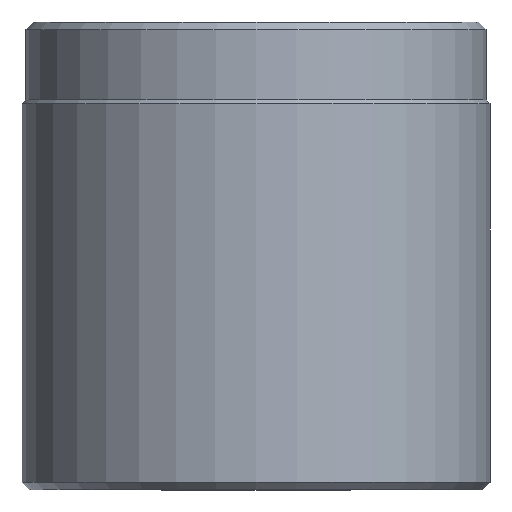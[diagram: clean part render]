
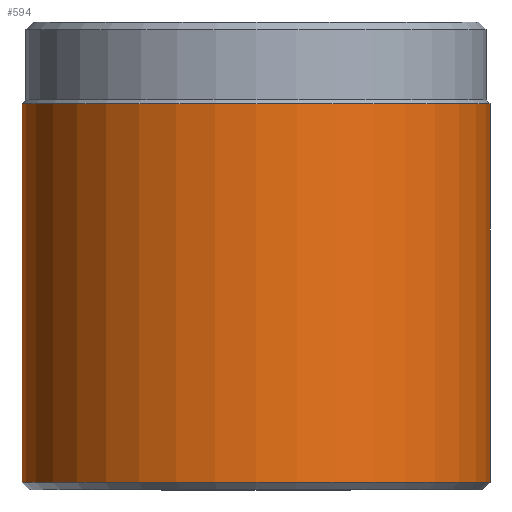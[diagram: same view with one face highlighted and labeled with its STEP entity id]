
A CAD part, front view. The second image highlights one B-rep face of the part: STEP entity #594.
In plain terms, the highlighted cylindrical face has radius 30 mm (diameter 60 mm), a partial arc.
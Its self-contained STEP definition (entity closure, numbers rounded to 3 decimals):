
#125=VERTEX_POINT(' ',#126);
#126=CARTESIAN_POINT('',(-30.,0.,1.));
#127=VERTEX_POINT(' ',#128);
#128=CARTESIAN_POINT('',(30.,0.,1.));
#129=VERTEX_POINT(' ',#130);
#130=CARTESIAN_POINT('',(-30.,0.,49.5));
#131=VERTEX_POINT(' ',#132);
#132=CARTESIAN_POINT('',(30.,0.,49.5));
#321=CIRCLE('',#322,30.);
#322=AXIS2_PLACEMENT_3D('',#323,#324,#325);
#323=CARTESIAN_POINT('',(0.,0.,1.));
#324=DIRECTION('',(0.,0.,1.));
#325=DIRECTION('',(0.,1.,0.));
#326=EDGE_CURVE(' ',#125,#127,#321,.T.);
#327=LINE('',#328,#329);
#328=CARTESIAN_POINT('',(-30.,0.,1.));
#329=VECTOR('',#330,1.);
#330=DIRECTION('',(0.,0.,1.));
#331=EDGE_CURVE(' ',#125,#129,#327,.T.);
#338=LINE('',#339,#340);
#339=CARTESIAN_POINT('',(30.,0.,1.));
#340=VECTOR('',#341,1.);
#341=DIRECTION('',(0.,0.,1.));
#342=EDGE_CURVE(' ',#127,#131,#338,.T.);
#343=CIRCLE('',#344,30.);
#344=AXIS2_PLACEMENT_3D('',#345,#346,#347);
#345=CARTESIAN_POINT('',(0.,0.,49.5));
#346=DIRECTION('',(0.,0.,1.));
#347=DIRECTION('',(0.,1.,0.));
#348=EDGE_CURVE(' ',#129,#131,#343,.T.);
#583=ORIENTED_EDGE('',*,*,#331,.F.);
#584=ORIENTED_EDGE('',*,*,#326,.T.);
#585=ORIENTED_EDGE('',*,*,#342,.T.);
#586=ORIENTED_EDGE('',*,*,#348,.F.);
#587=EDGE_LOOP('',(#583,#584,#585,#586));
#588=FACE_OUTER_BOUND('',#587,.T.);
#589=CYLINDRICAL_SURFACE('',#590,30.);
#590=AXIS2_PLACEMENT_3D('',#591,#592,#593);
#591=CARTESIAN_POINT('',(0.,0.,1.));
#592=DIRECTION('',(0.,0.,1.));
#593=DIRECTION('',(0.,1.,0.));
#594=ADVANCED_FACE('',(#588),#589,.T.);
